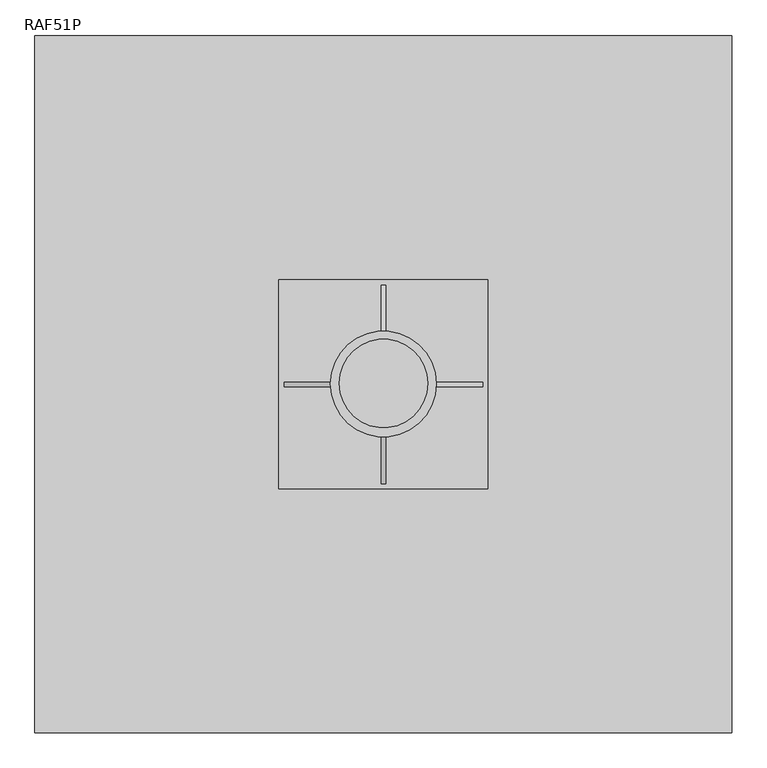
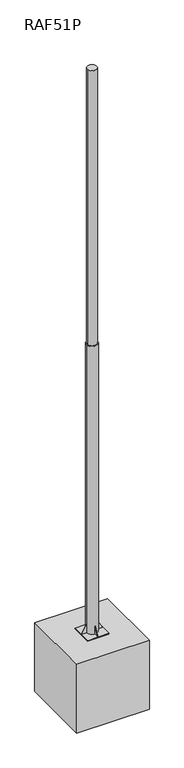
"""IFC4 building model written with IfcOpenShell, lengths in millimetres: light fixture geometry, CANDELA_CNF_RAF : RAF51P."""

from ifc_helpers import new_model, si_unit, point, frame, origin, origin_2d, place, context, project, spatial, polyline, circle_curve, trimmed, segment, composite_curve, outline, extrude, source, transform, mapped, element, save


def raf51p_179f5f42(model_context):
    return source(origin(), model_context, "Body", "SweptSolid", [
        extrude(outline(polyline([(500.0, 500.0), (500.0, -500.0), (-500.0, -500.0), (-500.0, 500.0), (500.0, 500.0)])), frame((0.0, 0.0, -1200.0), z_axis=(0.0, 0.0, 1.0), x_axis=(1.0, 0.0, 0.0)), (0.0, 0.0, 1.0), 1000.0),
        extrude(outline(composite_curve([segment(trimmed(circle_curve(origin_2d(), 76.0), [point((-76.0, 0.0))], [point((76.0, 0.0))], False, "CARTESIAN"), True, "CONTINUOUS"), segment(trimmed(circle_curve(origin_2d(), 76.0), [point((76.0, 0.0))], [point((-76.0, 0.0))], False, "CARTESIAN"), True, "CONTINUOUS")], self_intersect=False)), frame((0.0, 0.0, -190.0), z_axis=(0.0, 0.0, 1.0), x_axis=(1.0, 0.0, 0.0)), (0.0, 0.0, 1.0), 4190.0),
        extrude(outline(polyline([(57.15, -40.0), (142.65, -190.0), (79.9181562, -190.0), (57.15, -150.0558663), (57.15, -40.0)])), frame((-3.0, 0.0, 0.0), z_axis=(1.0, 0.0, 0.0), x_axis=(0.0, 1.0, 0.0)), (0.0, 0.0, 1.0), 6.0),
        extrude(outline(polyline([(-57.15, -40.0), (-57.15, -150.0558663), (-79.9181562, -190.0), (-142.65, -190.0), (-57.15, -40.0)])), frame((-3.0, 0.0, 0.0), z_axis=(1.0, 0.0, 0.0), x_axis=(0.0, 1.0, 0.0)), (0.0, 0.0, 1.0), 6.0),
        extrude(outline(polyline([(-40.0, -57.15), (-190.0, -142.65), (-190.0, -79.9181562), (-150.0558663, -57.15), (-40.0, -57.15)])), frame((0.0, -3.0, 0.0), z_axis=(0.0, 1.0, 0.0), x_axis=(0.0, 0.0, 1.0)), (0.0, 0.0, 1.0), 6.0),
        extrude(outline(polyline([(-40.0, 57.15), (-150.0558663, 57.15), (-190.0, 79.9181562), (-190.0, 142.65), (-40.0, 57.15)])), frame((0.0, -3.0, 0.0), z_axis=(0.0, 1.0, 0.0), x_axis=(0.0, 0.0, 1.0)), (0.0, 0.0, 1.0), 6.0),
        extrude(outline(composite_curve([segment(trimmed(circle_curve(origin_2d(), 63.5), [point((-63.5, 0.0))], [point((63.5, 0.0))], False, "CARTESIAN"), True, "CONTINUOUS"), segment(trimmed(circle_curve(origin_2d(), 63.5), [point((63.5, 0.0))], [point((-63.5, 0.0))], False, "CARTESIAN"), True, "CONTINUOUS")], self_intersect=False)), frame((0.0, 0.0, -190.0), z_axis=(0.0, 0.0, 1.0), x_axis=(1.0, 0.0, 0.0)), (0.0, 0.0, 1.0), 8190.0),
        extrude(outline(polyline([(150.0, 150.0), (150.0, -150.0), (-150.0, -150.0), (-150.0, 150.0), (150.0, 150.0)])), frame((0.0, 0.0, -200.0), z_axis=(0.0, 0.0, 1.0), x_axis=(1.0, 0.0, 0.0)), (0.0, 0.0, 1.0), 10.0),
    ])


if __name__ == "__main__":
    model = new_model("IFC4")
    model_context = context("Model", 3, world=origin())
    ifc_project = project(units=[si_unit("LENGTHUNIT", "METRE", prefix="MILLI")], contexts=[model_context])
    site = spatial("IfcSite", under=ifc_project)
    building = spatial("IfcBuilding", under=site)
    placement = place(None, origin())
    raf51p_shape = raf51p_179f5f42(model_context)
    element("IfcLightFixture", 1, ObjectType="CANDELA_CNF_RAF : RAF51P", at=placement, inside=building, context=model_context, shape_type="MappedRepresentation", body=[
        mapped(raf51p_shape, transform((0.0, 0.0, 0.0), x_axis=(1.0, 0.0, 0.0), y_axis=(0.0, 1.0, 0.0), z_axis=(0.0, 0.0, 1.0))),
    ])
    save(model, "model.ifc")
